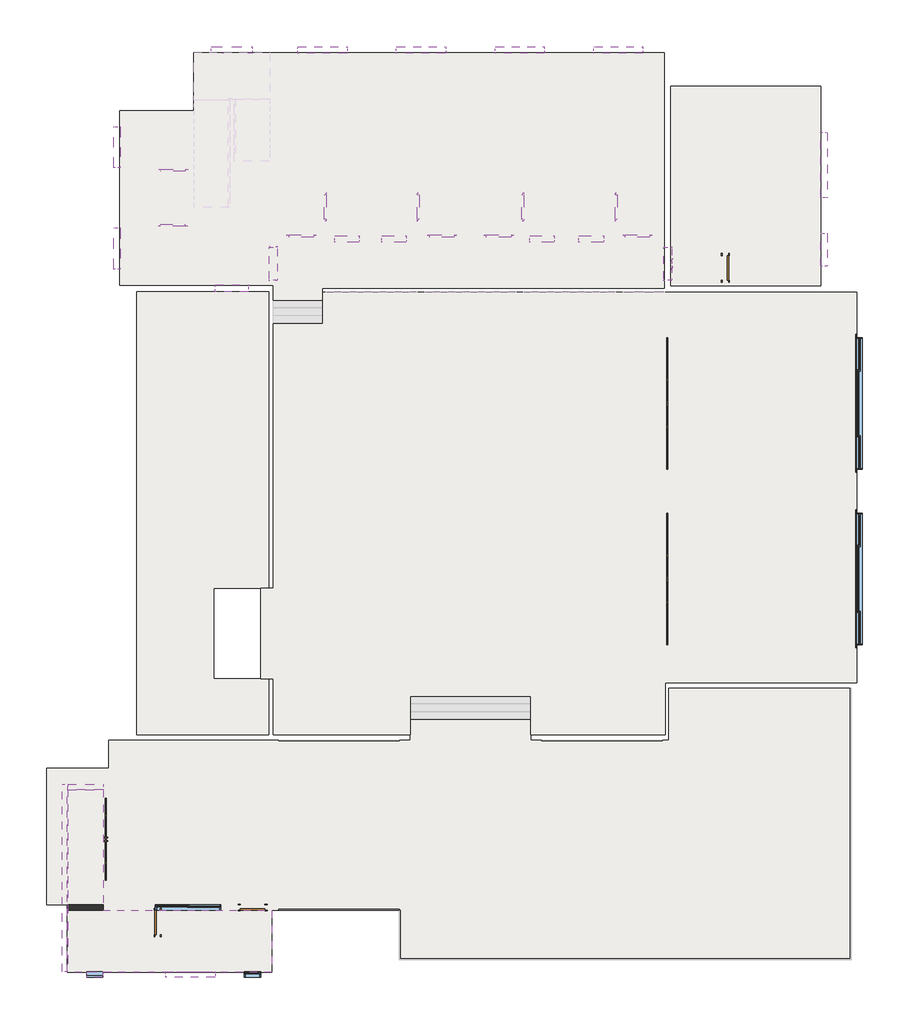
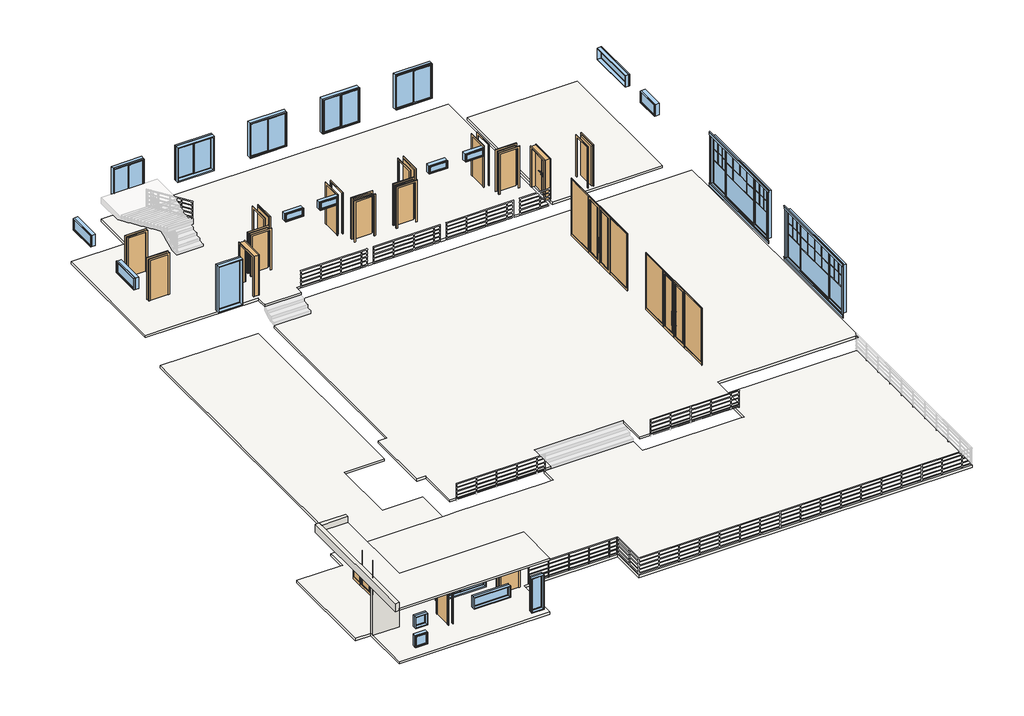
# One storey, part 1 of 5: 21 windows, 18 doors, 6 slabs, 3 walls, 1 railing.
"""IFC4 building model written with IfcOpenShell, lengths in millimetres."""

from ifc_helpers import new_model, si_unit, point, frame, frame_2d, origin, origin_with_axes, place, context, project, spatial, polyline, circle_curve, trimmed, segment, composite_curve, outline, extrude, faceted_brep, transform, mapped, element, save
from components import d1221_ba4ee0d3, m0921_198a37c4, m0921_4988a537, m0921_9b42acbb, m0921_203bd3fe, m0921_bb00f214, m0921_8cb0c558, m1221_25037a99, m3021_f616fdb8, m3021_ca4d32ab, m3021_a8b2207c, mlc4830_251ce5c6, c_1_92099e65, c_2_83bb7daf, c_3_d5226f5c, c_4_3e6a4c70, c1518_ca295862, c1818_23193a84, c2415_50dca1b5, c4825_28e7b31b, gc0904_cdc2df7b, gc1206_d9a31f06, gc1506_fe2e2cb9, gc2406_33aaf671

model = new_model("IFC4")

# Units and contexts
model_context = context("Model", 3, world=origin())
ifc_project = project(units=[si_unit("LENGTHUNIT", "METRE", prefix="MILLI")], contexts=[model_context])

# Site, building, storey
site = spatial("IfcSite", under=ifc_project)
building = spatial("IfcBuilding", under=site)
storey = spatial("IfcBuildingStorey", under=building, Name="标高 1", Elevation=0.0)

# Doors
placement = place(None, origin())
d1221_shape = d1221_ba4ee0d3(model_context)
element("IfcDoor", 1, ObjectType="门洞 : D1221", at=placement, inside=storey, context=model_context, shape_type="MappedRepresentation", body=[
    mapped(d1221_shape, transform((-2863.2622628, 17944.1658649, 1200.0), x_axis=(0.0, -1.0, 0.0), y_axis=(1.0, 0.0, 0.0), z_axis=(0.0, 0.0, 1.0))),
])
m0921_shape = m0921_198a37c4(model_context)
element("IfcDoor", 2, ObjectType="单扇 - 与墙齐 : M0921", at=placement, inside=storey, context=model_context, shape_type="MappedRepresentation", body=[
    mapped(m0921_shape, transform((-1828.2622628, 18844.1658649, 1200.0), x_axis=(-1.0, 0.0, 0.0), y_axis=(0.0, -1.0, 0.0), z_axis=(0.0, 0.0, 1.0))),
])
element("IfcDoor", 3, ObjectType="单扇 - 与墙齐 : M0921", at=placement, inside=storey, context=model_context, shape_type="MappedRepresentation", body=[
    mapped(m0921_shape, transform((2536.7377372, 20009.1658649, 1200.0), x_axis=(0.0, -1.0, 0.0), y_axis=(1.0, 0.0, 0.0), z_axis=(0.0, 0.0, 1.0))),
])
element("IfcDoor", 4, ObjectType="单扇 - 与墙齐 : M0921", at=placement, inside=storey, context=model_context, shape_type="MappedRepresentation", body=[
    mapped(m0921_shape, transform((5371.7377372, 18844.1658649, 1200.0), x_axis=(-1.0, 0.0, 0.0), y_axis=(0.0, -1.0, 0.0), z_axis=(0.0, 0.0, 1.0))),
])
element("IfcDoor", 5, ObjectType="单扇 - 与墙齐 : M0921", at=placement, inside=storey, context=model_context, shape_type="MappedRepresentation", body=[
    mapped(m0921_shape, transform((9766.7377372, 20009.1658649, 1200.0), x_axis=(0.0, -1.0, 0.0), y_axis=(1.0, 0.0, 0.0), z_axis=(0.0, 0.0, 1.0))),
])
m0921_2_shape = m0921_4988a537(model_context)
element("IfcDoor", 6, ObjectType="单扇 - 与墙齐 : M0921", at=placement, inside=storey, context=model_context, shape_type="MappedRepresentation", body=[
    mapped(m0921_2_shape, transform((-1063.2622628, 20009.1658649, 1200.0), x_axis=(0.0, -1.0, 0.0), y_axis=(1.0, 0.0, 0.0), z_axis=(0.0, 0.0, 1.0))),
])
element("IfcDoor", 7, ObjectType="单扇 - 与墙齐 : M0921", at=placement, inside=storey, context=model_context, shape_type="MappedRepresentation", body=[
    mapped(m0921_2_shape, transform((6136.7377372, 20009.1658649, 1200.0), x_axis=(0.0, -1.0, 0.0), y_axis=(1.0, 0.0, 0.0), z_axis=(0.0, 0.0, 1.0))),
])
element("IfcDoor", 8, ObjectType="单扇 - 与墙齐 : M0921", at=placement, inside=storey, context=model_context, shape_type="MappedRepresentation", body=[
    mapped(m0921_2_shape, transform((10436.7377372, 18844.1658649, 1200.0), x_axis=(1.0, 0.0, 0.0), y_axis=(0.0, 1.0, 0.0), z_axis=(0.0, 0.0, 1.0))),
])
element("IfcDoor", 9, ObjectType="单扇 - 与墙齐 : M0921", at=placement, inside=storey, context=model_context, shape_type="MappedRepresentation", body=[
    mapped(m0921_2_shape, transform((13646.7377372, 17789.1658649, 1150.0), x_axis=(0.0, -1.0, 0.0), y_axis=(1.0, 0.0, 0.0), z_axis=(0.0, 0.0, 1.0))),
])
element("IfcDoor", 10, ObjectType="单扇 - 与墙齐 : M0921", at=placement, inside=storey, context=model_context, shape_type="MappedRepresentation", body=[
    mapped(m0921_2_shape, transform((3301.7377372, 18844.1658649, 1200.0), x_axis=(1.0, 0.0, 0.0), y_axis=(0.0, 1.0, 0.0), z_axis=(0.0, 0.0, 1.0))),
])
m0921_3_shape = m0921_9b42acbb(model_context)
element("IfcDoor", 11, ObjectType="单扇 - 与墙齐 : M0921", at=placement, inside=storey, context=model_context, shape_type="MappedRepresentation", body=[
    mapped(m0921_3_shape, transform((-6508.2622628, 21304.1658649, 1200.0), x_axis=(1.0, 0.0, 0.0), y_axis=(0.0, 1.0, 0.0), z_axis=(0.0, 0.0, 1.0))),
])
m0921_4_shape = m0921_203bd3fe(model_context)
element("IfcDoor", 12, ObjectType="单扇 - 与墙齐 : M0921", at=placement, inside=storey, context=model_context, shape_type="MappedRepresentation", body=[
    mapped(m0921_4_shape, transform((-6528.2622628, 19384.1658649, 1200.0), x_axis=(1.0, 0.0, 0.0), y_axis=(0.0, 1.0, 0.0), z_axis=(0.0, 0.0, 1.0))),
])
m0921_5_shape = m0921_bb00f214(model_context)
element("IfcDoor", 13, ObjectType="单扇 - 与墙齐 : M0921", at=placement, inside=storey, context=model_context, shape_type="MappedRepresentation", body=[
    mapped(m0921_5_shape, transform((-3608.2622628, -5555.8341351, 0.0), x_axis=(1.0, 0.0, 0.0), y_axis=(0.0, 1.0, 0.0), z_axis=(0.0, 0.0, 1.0))),
])
m0921_6_shape = m0921_8cb0c558(model_context)
element("IfcDoor", 14, ObjectType="单扇 - 与墙齐 : M0921", at=placement, inside=storey, context=model_context, shape_type="MappedRepresentation", body=[
    mapped(m0921_6_shape, transform((-7073.2622628, -6100.8341351, 0.0), x_axis=(0.0, 1.0, 0.0), y_axis=(-1.0, 0.0, 0.0), z_axis=(0.0, 0.0, 1.0))),
])
m1221_shape = m1221_25037a99(model_context)
element("IfcDoor", 15, ObjectType="双面嵌板木门 1 : M1221", at=placement, inside=storey, context=model_context, shape_type="MappedRepresentation", body=[
    mapped(m1221_shape, transform((11536.7377372, 17934.1658649, 1200.0), x_axis=(0.0, -1.0, 0.0), y_axis=(1.0, 0.0, 0.0), z_axis=(0.0, 0.0, 1.0))),
])
m3021_shape = m3021_f616fdb8(model_context)
m3021_2_shape = m3021_ca4d32ab(model_context)
m3021_3_shape = m3021_a8b2207c(model_context)
element("IfcDoor", 16, ObjectType="双面嵌板连窗玻璃门 3 : M3021", at=placement, inside=storey, context=model_context, shape_type="MappedRepresentation", body=[
    mapped(m3021_shape, transform((-8963.2622628, -3060.8341351, 0.0), x_axis=(0.0, -1.0, 0.0), y_axis=(1.0, 0.0, 0.0), z_axis=(0.0, 0.0, 1.0))),
    mapped(m3021_2_shape, transform((-8963.2622628, -3060.8341351, 0.0), x_axis=(0.0, -1.0, 0.0), y_axis=(1.0, 0.0, 0.0), z_axis=(0.0, 0.0, 1.0))),
    mapped(m3021_3_shape, transform((-8963.2622628, -3060.8341351, 0.0), x_axis=(0.0, -1.0, 0.0), y_axis=(1.0, 0.0, 0.0), z_axis=(0.0, 0.0, 1.0))),
])
mlc4830_shape = mlc4830_251ce5c6(model_context)
element("IfcDoor", 17, ObjectType="双面嵌板连窗玻璃门 3 : MLC4830", at=placement, inside=storey, context=model_context, shape_type="MappedRepresentation", body=[
    mapped(m3021_shape, transform((11516.7377372, 12844.1658649, 600.0), x_axis=(0.0, -1.0, 0.0), y_axis=(1.0, 0.0, 0.0), z_axis=(0.0, 0.0, 1.0))),
    mapped(m3021_2_shape, transform((11516.7377372, 12844.1658649, 600.0), x_axis=(0.0, -1.0, 0.0), y_axis=(1.0, 0.0, 0.0), z_axis=(0.0, 0.0, 1.0))),
    mapped(mlc4830_shape, transform((11516.7377372, 12844.1658649, 600.0), x_axis=(0.0, -1.0, 0.0), y_axis=(1.0, 0.0, 0.0), z_axis=(0.0, 0.0, 1.0))),
])
element("IfcDoor", 18, ObjectType="双面嵌板连窗玻璃门 3 : MLC4830", at=placement, inside=storey, context=model_context, shape_type="MappedRepresentation", body=[
    mapped(m3021_shape, transform((11516.7377372, 6439.1658649, 600.0), x_axis=(0.0, -1.0, 0.0), y_axis=(1.0, 0.0, 0.0), z_axis=(0.0, 0.0, 1.0))),
    mapped(m3021_2_shape, transform((11516.7377372, 6439.1658649, 600.0), x_axis=(0.0, -1.0, 0.0), y_axis=(1.0, 0.0, 0.0), z_axis=(0.0, 0.0, 1.0))),
    mapped(mlc4830_shape, transform((11516.7377372, 6439.1658649, 600.0), x_axis=(0.0, -1.0, 0.0), y_axis=(1.0, 0.0, 0.0), z_axis=(0.0, 0.0, 1.0))),
])

# Railing
element("IfcRailing", 19, ObjectType="900mm 圆管", at=placement, inside=storey, context=model_context, shape_type="SweptSolid", body=[
    extrude(outline(composite_curve([segment(trimmed(circle_curve(frame_2d((-5635.8341351, 880.0)), 20.0), [point((-5655.8341351, 880.0))], [point((-5615.8341351, 880.0))], False, "CARTESIAN"), True, "CONTINUOUS"), segment(trimmed(circle_curve(frame_2d((-5635.8341351, 880.0)), 20.0), [point((-5615.8341351, 880.0))], [point((-5655.8341351, 880.0))], False, "CARTESIAN"), True, "CONTINUOUS")], self_intersect=False)), frame((-2663.2622628, 0.0, 0.0), z_axis=(1.0, 0.0, 0.0), x_axis=(0.0, 1.0, 0.0)), (0.0, 0.0, 1.0), 4400.0),
    extrude(outline(composite_curve([segment(trimmed(circle_curve(frame_2d((-5635.8341351, 685.0)), 15.0), [point((-5620.8341351, 685.0))], [point((-5650.8341351, 685.0))], False, "CARTESIAN"), True, "CONTINUOUS"), segment(trimmed(circle_curve(frame_2d((-5635.8341351, 685.0)), 15.0), [point((-5650.8341351, 685.0))], [point((-5620.8341351, 685.0))], False, "CARTESIAN"), True, "CONTINUOUS")], self_intersect=False)), frame((-2663.2622628, 0.0, 0.0), z_axis=(1.0, 0.0, 0.0), x_axis=(0.0, 1.0, 0.0)), (0.0, 0.0, 1.0), 4400.0),
    extrude(outline(composite_curve([segment(trimmed(circle_curve(frame_2d((-5635.8341351, 485.0)), 15.0), [point((-5620.8341351, 485.0))], [point((-5650.8341351, 485.0))], False, "CARTESIAN"), True, "CONTINUOUS"), segment(trimmed(circle_curve(frame_2d((-5635.8341351, 485.0)), 15.0), [point((-5650.8341351, 485.0))], [point((-5620.8341351, 485.0))], False, "CARTESIAN"), True, "CONTINUOUS")], self_intersect=False)), frame((-2663.2622628, 0.0, 0.0), z_axis=(1.0, 0.0, 0.0), x_axis=(0.0, 1.0, 0.0)), (0.0, 0.0, 1.0), 4400.0),
    extrude(outline(composite_curve([segment(trimmed(circle_curve(frame_2d((-5635.8341351, 285.0)), 15.0), [point((-5620.8341351, 285.0))], [point((-5650.8341351, 285.0))], False, "CARTESIAN"), True, "CONTINUOUS"), segment(trimmed(circle_curve(frame_2d((-5635.8341351, 285.0)), 15.0), [point((-5650.8341351, 285.0))], [point((-5620.8341351, 285.0))], False, "CARTESIAN"), True, "CONTINUOUS")], self_intersect=False)), frame((-2663.2622628, 0.0, 0.0), z_axis=(1.0, 0.0, 0.0), x_axis=(0.0, 1.0, 0.0)), (0.0, 0.0, 1.0), 4400.0),
    extrude(outline(composite_curve([segment(trimmed(circle_curve(frame_2d((-5635.8341351, 85.0)), 15.0), [point((-5620.8341351, 85.0))], [point((-5650.8341351, 85.0))], False, "CARTESIAN"), True, "CONTINUOUS"), segment(trimmed(circle_curve(frame_2d((-5635.8341351, 85.0)), 15.0), [point((-5650.8341351, 85.0))], [point((-5620.8341351, 85.0))], False, "CARTESIAN"), True, "CONTINUOUS")], self_intersect=False)), frame((-2663.2622628, 0.0, 0.0), z_axis=(1.0, 0.0, 0.0), x_axis=(0.0, 1.0, 0.0)), (0.0, 0.0, 1.0), 4400.0),
    extrude(outline(composite_curve([segment(trimmed(circle_curve(frame_2d((1336.7377372, -5635.8341351)), 12.5), [point((1336.7377372, -5623.3341351))], [point((1336.7377372, -5648.3341351))], False, "CARTESIAN"), True, "CONTINUOUS"), segment(trimmed(circle_curve(frame_2d((1336.7377372, -5635.8341351)), 12.5), [point((1336.7377372, -5648.3341351))], [point((1336.7377372, -5623.3341351))], False, "CARTESIAN"), True, "CONTINUOUS")], self_intersect=False)), origin_with_axes(), (0.0, 0.0, 1.0), 860.0),
    extrude(outline(composite_curve([segment(trimmed(circle_curve(frame_2d((336.7377372, -5635.8341351)), 12.5), [point((336.7377372, -5623.3341351))], [point((336.7377372, -5648.3341351))], False, "CARTESIAN"), True, "CONTINUOUS"), segment(trimmed(circle_curve(frame_2d((336.7377372, -5635.8341351)), 12.5), [point((336.7377372, -5648.3341351))], [point((336.7377372, -5623.3341351))], False, "CARTESIAN"), True, "CONTINUOUS")], self_intersect=False)), origin_with_axes(), (0.0, 0.0, 1.0), 860.0),
    extrude(outline(composite_curve([segment(trimmed(circle_curve(frame_2d((-663.2622628, -5635.8341351)), 12.5), [point((-663.2622628, -5623.3341351))], [point((-663.2622628, -5648.3341351))], False, "CARTESIAN"), True, "CONTINUOUS"), segment(trimmed(circle_curve(frame_2d((-663.2622628, -5635.8341351)), 12.5), [point((-663.2622628, -5648.3341351))], [point((-663.2622628, -5623.3341351))], False, "CARTESIAN"), True, "CONTINUOUS")], self_intersect=False)), origin_with_axes(), (0.0, 0.0, 1.0), 860.0),
    extrude(outline(composite_curve([segment(trimmed(circle_curve(frame_2d((-1663.2622628, -5635.8341351)), 12.5), [point((-1663.2622628, -5623.3341351))], [point((-1663.2622628, -5648.3341351))], False, "CARTESIAN"), True, "CONTINUOUS"), segment(trimmed(circle_curve(frame_2d((-1663.2622628, -5635.8341351)), 12.5), [point((-1663.2622628, -5648.3341351))], [point((-1663.2622628, -5623.3341351))], False, "CARTESIAN"), True, "CONTINUOUS")], self_intersect=False)), origin_with_axes(), (0.0, 0.0, 1.0), 860.0),
    extrude(outline(composite_curve([segment(trimmed(circle_curve(frame_2d((1724.2377372, -5635.8341351)), 12.5), [point((1724.2377372, -5623.3341351))], [point((1724.2377372, -5648.3341351))], False, "CARTESIAN"), True, "CONTINUOUS"), segment(trimmed(circle_curve(frame_2d((1724.2377372, -5635.8341351)), 12.5), [point((1724.2377372, -5648.3341351))], [point((1724.2377372, -5623.3341351))], False, "CARTESIAN"), True, "CONTINUOUS")], self_intersect=False)), origin_with_axes(), (0.0, 0.0, 1.0), 860.0),
    extrude(outline(composite_curve([segment(trimmed(circle_curve(frame_2d((-2650.7622628, -5635.8341351)), 12.5), [point((-2650.7622628, -5623.3341351))], [point((-2650.7622628, -5648.3341351))], False, "CARTESIAN"), True, "CONTINUOUS"), segment(trimmed(circle_curve(frame_2d((-2650.7622628, -5635.8341351)), 12.5), [point((-2650.7622628, -5648.3341351))], [point((-2650.7622628, -5623.3341351))], False, "CARTESIAN"), True, "CONTINUOUS")], self_intersect=False)), origin_with_axes(), (0.0, 0.0, 1.0), 860.0),
])

# Slabs
element("IfcSlab", 20, ObjectType="楼板-120mm", at=placement, inside=storey, context=model_context, shape_type="Brep", body=[
    faceted_brep([(-5748.2622628, 23529.1658649, 1080.0), (-5748.2622628, 25629.1658649, 1080.0), (11421.7377372, 25629.1658649, 1080.0), (11421.7377372, 17039.1658649, 1080.0), (9916.7377372, 17039.1658649, 1080.0), (9616.7377372, 17039.1658649, 1080.0), (6286.7377372, 17039.1658649, 1080.0), (5986.7377372, 17039.1658649, 1080.0), (2686.7377372, 17039.1658649, 1080.0), (2386.7377372, 17039.1658649, 1080.0), (-913.2622628, 17039.1658649, 1080.0), (-1063.2622628, 17039.1658649, 1080.0), (-1063.2622628, 16894.1658649, 1080.0), (-1063.2622628, 16609.1658649, 1080.0), (-2863.2622628, 16609.1658649, 1080.0), (-2863.2622628, 17159.1658649, 1080.0), (-8448.2622628, 17159.1658649, 1080.0), (-8448.2622628, 23529.1658649, 1080.0), (-5748.2622628, 23529.1658649, 1200.0), (-8448.2622628, 23529.1658649, 1200.0), (-8448.2622628, 17159.1658649, 1200.0), (-2863.2622628, 17159.1658649, 1200.0), (-2863.2622628, 16609.1658649, 1200.0), (-1063.2622628, 16609.1658649, 1200.0), (-1063.2622628, 16894.1658649, 1200.0), (-1063.2622628, 17039.1658649, 1200.0), (-913.2622628, 17039.1658649, 1200.0), (2386.7377372, 17039.1658649, 1200.0), (2686.7377372, 17039.1658649, 1200.0), (5986.7377372, 17039.1658649, 1200.0), (6286.7377372, 17039.1658649, 1200.0), (9616.7377372, 17039.1658649, 1200.0), (9916.7377372, 17039.1658649, 1200.0), (11421.7377372, 17039.1658649, 1200.0), (11421.7377372, 25629.1658649, 1200.0), (-5748.2622628, 25629.1658649, 1200.0)], [[[0, 1, 2, 3, 4, 5, 6, 7, 8, 9, 10, 11, 12, 13, 14, 15, 16, 17]], [[18, 19, 20, 21, 22, 23, 24, 25, 26, 27, 28, 29, 30, 31, 32, 33, 34, 35]], [[1, 0, 18, 35]], [[2, 1, 35, 34]], [[3, 2, 34, 33]], [[11, 10, 9, 8, 7, 6, 5, 4, 3, 33, 32, 31, 30, 29, 28, 27, 26, 25]], [[16, 15, 21, 20]], [[17, 16, 20, 19]], [[0, 17, 19, 18]], [[14, 13, 23, 22]], [[13, 12, 11, 25, 24, 23]], [[15, 14, 22, 21]]]),
])
element("IfcSlab", 21, ObjectType="楼板-120mm", at=placement, inside=storey, context=model_context, shape_type="Brep", body=[
    faceted_brep([(-2863.2622628, 2794.1658649, 480.0), (-3316.5534658, 2794.1658649, 480.0), (-3316.5534658, 6094.1658649, 480.0), (-2863.2622628, 6094.1658649, 480.0), (-2863.2622628, 15774.1658649, 480.0), (-1063.2622628, 15774.1658649, 480.0), (-1063.2622628, 16894.1658649, 480.0), (18436.7377372, 16894.1658649, 480.0), (18436.7377372, 15644.1658649, 480.0), (18436.7377372, 15244.1658649, 480.0), (18436.7377372, 10044.1658649, 480.0), (18436.7377372, 9644.1658649, 480.0), (18436.7377372, 2844.1658649, 480.0), (18436.7377372, 2644.1658649, 480.0), (18236.7377372, 2644.1658649, 480.0), (11736.7377372, 2644.1658649, 480.0), (11456.7377372, 2644.1658649, 480.0), (11456.7377372, 2444.1658649, 480.0), (11456.7377372, 744.1658649, 480.0), (6536.7377372, 744.1658649, 480.0), (6536.7377372, 2164.1658649, 480.0), (2136.7377372, 2164.1658649, 480.0), (2136.7377372, 744.1658649, 480.0), (-2863.2622628, 744.1658649, 480.0), (-2863.2622628, 2794.1658649, 600.0), (-2863.2622628, 744.1658649, 600.0), (2136.7377372, 744.1658649, 600.0), (2136.7377372, 2164.1658649, 600.0), (6536.7377372, 2164.1658649, 600.0), (6536.7377372, 744.1658649, 600.0), (11456.7377372, 744.1658649, 600.0), (11456.7377372, 2444.1658649, 600.0), (11456.7377372, 2644.1658649, 600.0), (11736.7377372, 2644.1658649, 600.0), (18236.7377372, 2644.1658649, 600.0), (18436.7377372, 2644.1658649, 600.0), (18436.7377372, 2844.1658649, 600.0), (18436.7377372, 9644.1658649, 600.0), (18436.7377372, 10044.1658649, 600.0), (18436.7377372, 15244.1658649, 600.0), (18436.7377372, 15644.1658649, 600.0), (18436.7377372, 16894.1658649, 600.0), (-1063.2622628, 16894.1658649, 600.0), (-1063.2622628, 15774.1658649, 600.0), (-2863.2622628, 15774.1658649, 600.0), (-2863.2622628, 6094.1658649, 600.0), (-3316.5534658, 6094.1658649, 600.0), (-3316.5534658, 2794.1658649, 600.0)], [[[0, 1, 2, 3, 4, 5, 6, 7, 8, 9, 10, 11, 12, 13, 14, 15, 16, 17, 18, 19, 20, 21, 22, 23]], [[24, 25, 26, 27, 28, 29, 30, 31, 32, 33, 34, 35, 36, 37, 38, 39, 40, 41, 42, 43, 44, 45, 46, 47]], [[5, 4, 44, 43]], [[6, 5, 43, 42]], [[7, 6, 42, 41]], [[13, 12, 11, 10, 9, 8, 7, 41, 40, 39, 38, 37, 36, 35]], [[16, 15, 14, 13, 35, 34, 33, 32]], [[18, 17, 16, 32, 31, 30]], [[19, 18, 30, 29]], [[20, 19, 29, 28]], [[21, 20, 28, 27]], [[22, 21, 27, 26]], [[23, 22, 26, 25]], [[0, 23, 25, 24]], [[1, 0, 24, 47]], [[2, 1, 47, 46]], [[3, 2, 46, 45]], [[4, 3, 45, 44]]]),
])
element("IfcSlab", 22, ObjectType="楼板-120mm", at=placement, inside=storey, context=model_context, shape_type="SweptSolid", body=[
    extrude(outline(polyline([(11656.7377372, 24424.1658649), (17116.7377372, 24424.1658649), (17116.7377372, 17144.1658649), (11656.7377372, 17144.1658649), (11656.7377372, 24424.1658649)])), frame((0.0, 0.0, 1030.0), z_axis=(0.0, 0.0, 1.0), x_axis=(1.0, 0.0, 0.0)), (0.0, 0.0, 1.0), 120.0),
])
element("IfcSlab", 23, ObjectType="楼板-120mm", at=placement, inside=storey, context=model_context, shape_type="SweptSolid", body=[
    extrude(outline(polyline([(-7843.2622628, 16924.1658649), (-3013.2622628, 16924.1658649), (-3013.2622628, 6094.1658649), (-5021.5534658, 6094.1658649), (-5021.5534658, 2794.1658649), (-3013.2622628, 2794.1658649), (-3013.2622628, 744.1658649), (-7843.2622628, 744.1658649), (-7843.2622628, 16924.1658649)])), frame((0.0, 0.0, -570.0), z_axis=(0.0, 0.0, 1.0), x_axis=(1.0, 0.0, 0.0)), (0.0, 0.0, 1.0), 120.0),
])
element("IfcSlab", 24, ObjectType="楼板-120mm", at=placement, inside=storey, context=model_context, shape_type="Brep", body=[
    faceted_brep([(2136.7377372, 549.1658649, -120.0), (2136.7377372, 1319.1658649, -120.0), (6536.7377372, 1319.1658649, -120.0), (6536.7377372, 549.1658649, -120.0), (6936.7377372, 549.1658649, -120.0), (11336.7377372, 549.1658649, -120.0), (11576.7377372, 549.1658649, -120.0), (11576.7377372, 744.1658649, -120.0), (11576.7377372, 2449.1658649, -120.0), (18236.7377372, 2449.1658649, -120.0), (18236.7377372, -7455.8341351, -120.0), (1736.7377372, -7455.8341351, -120.0), (1736.7377372, -5655.8341351, -120.0), (1736.7377372, -5650.8341351, -120.0), (-2663.2622628, -5650.8341351, -120.0), (-2908.2622628, -5650.8341351, -120.0), (-2908.2622628, -5655.8341351, -120.0), (-2908.2622628, -7910.8341351, -120.0), (-10368.2622628, -7910.8341351, -120.0), (-10368.2622628, -5460.8341351, -120.0), (-11128.2622628, -5460.8341351, -120.0), (-11128.2622628, -466.0438828, -120.0), (-8863.2622628, -466.0438828, -120.0), (-8863.2622628, 344.1658649, -120.0), (-8863.2622628, 549.1658649, -120.0), (-8663.2622628, 549.1658649, -120.0), (-3063.2622628, 549.1658649, -120.0), (-2663.2622628, 549.1658649, -120.0), (1736.7377372, 549.1658649, -120.0), (2136.7377372, 549.1658649, 0.0), (1736.7377372, 549.1658649, 0.0), (-2663.2622628, 549.1658649, 0.0), (-3063.2622628, 549.1658649, 0.0), (-8663.2622628, 549.1658649, 0.0), (-8863.2622628, 549.1658649, 0.0), (-8863.2622628, 344.1658649, 0.0), (-8863.2622628, -466.0438828, 0.0), (-11128.2622628, -466.0438828, 0.0), (-11128.2622628, -5460.8341351, 0.0), (-10368.2622628, -5460.8341351, 0.0), (-10368.2622628, -7910.8341351, 0.0), (-2908.2622628, -7910.8341351, 0.0), (-2908.2622628, -5655.8341351, 0.0), (-2908.2622628, -5650.8341351, 0.0), (-2663.2622628, -5650.8341351, 0.0), (1736.7377372, -5650.8341351, 0.0), (1736.7377372, -5655.8341351, 0.0), (1736.7377372, -7455.8341351, 0.0), (18236.7377372, -7455.8341351, 0.0), (18236.7377372, 2449.1658649, 0.0), (11576.7377372, 2449.1658649, 0.0), (11576.7377372, 744.1658649, 0.0), (11576.7377372, 549.1658649, 0.0), (11336.7377372, 549.1658649, 0.0), (6936.7377372, 549.1658649, 0.0), (6536.7377372, 549.1658649, 0.0), (6536.7377372, 1319.1658649, 0.0), (2136.7377372, 1319.1658649, 0.0)], [[[0, 1, 2, 3, 4, 5, 6, 7, 8, 9, 10, 11, 12, 13, 14, 15, 16, 17, 18, 19, 20, 21, 22, 23, 24, 25, 26, 27, 28]], [[29, 30, 31, 32, 33, 34, 35, 36, 37, 38, 39, 40, 41, 42, 43, 44, 45, 46, 47, 48, 49, 50, 51, 52, 53, 54, 55, 56, 57]], [[8, 7, 6, 52, 51, 50]], [[9, 8, 50, 49]], [[10, 9, 49, 48]], [[11, 10, 48, 47]], [[13, 12, 11, 47, 46, 45]], [[15, 14, 13, 45, 44, 43]], [[17, 16, 15, 43, 42, 41]], [[18, 17, 41, 40]], [[19, 18, 40, 39]], [[20, 19, 39, 38]], [[21, 20, 38, 37]], [[22, 21, 37, 36]], [[24, 23, 22, 36, 35, 34]], [[0, 28, 27, 26, 25, 24, 34, 33, 32, 31, 30, 29]], [[1, 0, 29, 57]], [[2, 1, 57, 56]], [[3, 2, 56, 55]], [[6, 5, 4, 3, 55, 54, 53, 52]]]),
])
element("IfcSlab", 25, ObjectType="楼板-120mm", at=placement, inside=storey, context=model_context, shape_type="SweptSolid", body=[
    extrude(outline(polyline([(-10368.2622628, -1250.8341351), (-9058.2622628, -1250.8341351), (-9058.2622628, -5650.8341351), (-2908.2622628, -5650.8341351), (-2908.2622628, -7910.8341351), (-10368.2622628, -7910.8341351), (-10368.2622628, -1250.8341351)])), frame((0.0, 0.0, 2680.0), z_axis=(0.0, 0.0, 1.0), x_axis=(1.0, 0.0, 0.0)), (0.0, 0.0, 1.0), 120.0),
])

# Walls
element("IfcWall", 26, ObjectType="200mm厚墙", at=placement, inside=storey, context=model_context, shape_type="SweptSolid", body=[
    extrude(outline(polyline([(-10363.2622628, -5455.8341351), (-9063.2622628, -5455.8341351), (-9063.2622628, -5655.8341351), (-10363.2622628, -5655.8341351), (-10363.2622628, -5455.8341351)])), origin_with_axes(), (0.0, 0.0, 1.0), 2680.0),
])
element("IfcWall", 27, ObjectType="200mm厚墙", at=placement, inside=storey, context=model_context, shape_type="Brep", body=[
    faceted_brep([(-10363.2622628, -7905.8341351, 2680.0), (-10363.2622628, -5455.8341351, 2680.0), (-10363.2622628, -1255.8341351, 2680.0), (-10363.2622628, -1055.8341351, 2680.0), (-10363.2622628, -1055.8341351, 3100.0), (-10363.2622628, -1255.8341351, 3100.0), (-10363.2622628, -7905.8341351, 3100.0), (-10563.2622628, -7905.8341351, 2680.0), (-10563.2622628, -7905.8341351, 3100.0), (-10563.2622628, -1055.8341351, 3100.0), (-10563.2622628, -1055.8341351, 2680.0), (-10563.2622628, -5455.8341351, 2680.0)], [[[0, 1, 2, 3, 4, 5, 6]], [[7, 8, 9, 10, 11]], [[3, 2, 1, 0, 7, 11, 10]], [[6, 5, 4, 9, 8]], [[4, 3, 10, 9]], [[0, 6, 8, 7]]]),
])
element("IfcWall", 28, ObjectType="200mm厚墙", at=placement, inside=storey, context=model_context, shape_type="SweptSolid", body=[
    extrude(outline(polyline([(-9063.2622628, -1255.8341351), (-10363.2622628, -1255.8341351), (-10363.2622628, -1055.8341351), (-9063.2622628, -1055.8341351), (-9063.2622628, -1255.8341351)])), frame((0.0, 0.0, 2680.0), z_axis=(0.0, 0.0, 1.0), x_axis=(1.0, 0.0, 0.0)), (0.0, 0.0, 1.0), 420.0),
])

# Windows
c_1_shape = c_1_92099e65(model_context)
element("IfcWindow", 29, ObjectType="固定 : C-1", at=placement, inside=storey, context=model_context, shape_type="MappedRepresentation", body=[
    mapped(c_1_shape, transform((-4363.2622628, 17031.1658649, 385.0), x_axis=(1.0, 0.0, 0.0), y_axis=(0.0, 1.0, 0.0), z_axis=(0.0, 0.0, 1.0))),
])
c_2_shape = c_2_83bb7daf(model_context)
element("IfcWindow", 30, ObjectType="固定 : C-2", at=placement, inside=storey, context=model_context, shape_type="MappedRepresentation", body=[
    mapped(c_2_shape, transform((-9368.2622628, -7992.8341351, -315.0), x_axis=(-1.0, 0.0, 0.0), y_axis=(0.0, -1.0, 0.0), z_axis=(0.0, 0.0, 1.0))),
])
element("IfcWindow", 31, ObjectType="固定 : C-2", at=placement, inside=storey, context=model_context, shape_type="MappedRepresentation", body=[
    mapped(c_2_shape, transform((-9368.2622628, -8018.8341351, 685.0), x_axis=(1.0, 0.0, 0.0), y_axis=(0.0, 1.0, 0.0), z_axis=(0.0, 0.0, 1.0))),
])
c_3_shape = c_3_d5226f5c(model_context)
element("IfcWindow", 32, ObjectType="固定 : C-3", at=placement, inside=storey, context=model_context, shape_type="MappedRepresentation", body=[
    mapped(c_3_shape, transform((-5873.2622628, -8018.8341351, 0.0), x_axis=(1.0, 0.0, 0.0), y_axis=(0.0, 1.0, 0.0), z_axis=(0.0, 0.0, 1.0))),
])
c_4_shape = c_4_3e6a4c70(model_context)
element("IfcWindow", 33, ObjectType="固定 : C-4", at=placement, inside=storey, context=model_context, shape_type="MappedRepresentation", body=[
    mapped(c_4_shape, transform((-3613.2622628, -8018.8341351, -1200.0), x_axis=(1.0, 0.0, 0.0), y_axis=(0.0, 1.0, 0.0), z_axis=(0.0, 0.0, 1.0))),
])
c1518_shape = c1518_ca295862(model_context)
element("IfcWindow", 34, ObjectType="推拉窗6 : C1518", at=placement, inside=storey, context=model_context, shape_type="MappedRepresentation", body=[
    mapped(c1518_shape, transform((-4353.7372628, 25677.2924274, 1200.0), x_axis=(-1.0, 0.0, 0.0), y_axis=(0.0, -1.0, 0.0), z_axis=(0.0, 0.0, 1.0))),
])
c1818_shape = c1818_23193a84(model_context)
element("IfcWindow", 35, ObjectType="推拉窗6 : C1818", at=placement, inside=storey, context=model_context, shape_type="MappedRepresentation", body=[
    mapped(c1818_shape, transform((-1072.7872628, 25811.0393024, 1200.0), x_axis=(1.0, 0.0, 0.0), y_axis=(0.0, 1.0, 0.0), z_axis=(0.0, 0.0, 1.0))),
])
element("IfcWindow", 36, ObjectType="推拉窗6 : C1818", at=placement, inside=storey, context=model_context, shape_type="MappedRepresentation", body=[
    mapped(c1818_shape, transform((2546.2627372, 25677.2924274, 1200.0), x_axis=(-1.0, 0.0, 0.0), y_axis=(0.0, -1.0, 0.0), z_axis=(0.0, 0.0, 1.0))),
])
element("IfcWindow", 37, ObjectType="推拉窗6 : C1818", at=placement, inside=storey, context=model_context, shape_type="MappedRepresentation", body=[
    mapped(c1818_shape, transform((6146.2627372, 25677.2924274, 1200.0), x_axis=(-1.0, 0.0, 0.0), y_axis=(0.0, -1.0, 0.0), z_axis=(0.0, 0.0, 1.0))),
])
element("IfcWindow", 38, ObjectType="推拉窗6 : C1818", at=placement, inside=storey, context=model_context, shape_type="MappedRepresentation", body=[
    mapped(c1818_shape, transform((9746.2627372, 25677.2924274, 1200.0), x_axis=(-1.0, 0.0, 0.0), y_axis=(0.0, -1.0, 0.0), z_axis=(0.0, 0.0, 1.0))),
])
c2415_shape = c2415_50dca1b5(model_context)
element("IfcWindow", 39, ObjectType="推拉窗6 : C2415", at=placement, inside=storey, context=model_context, shape_type="MappedRepresentation", body=[
    mapped(c2415_shape, transform((-5972.7872628, -5488.9606976, 0.0), x_axis=(1.0, 0.0, 0.0), y_axis=(0.0, 1.0, 0.0), z_axis=(0.0, 0.0, 1.0))),
])
c4825_shape = c4825_28e7b31b(model_context)
element("IfcWindow", 40, ObjectType="推拉窗3 - 带贴面 : C4825", at=placement, inside=storey, context=model_context, shape_type="MappedRepresentation", body=[
    mapped(c4825_shape, transform((18536.7377372, 13460.0908649, 0.0), x_axis=(0.0, 1.0, 0.0), y_axis=(-1.0, 0.0, 0.0), z_axis=(0.0, 0.0, 1.0))),
])
element("IfcWindow", 41, ObjectType="推拉窗3 - 带贴面 : C4825", at=placement, inside=storey, context=model_context, shape_type="MappedRepresentation", body=[
    mapped(c4825_shape, transform((18536.7377372, 7055.0908649, 0.0), x_axis=(0.0, 1.0, 0.0), y_axis=(-1.0, 0.0, 0.0), z_axis=(0.0, 0.0, 1.0))),
])
gc0904_shape = gc0904_cdc2df7b(model_context)
element("IfcWindow", 42, ObjectType="固定 : GC0904", at=placement, inside=storey, context=model_context, shape_type="MappedRepresentation", body=[
    mapped(gc0904_shape, transform((-163.2622628, 18857.1658649, 2535.0), x_axis=(-1.0, 0.0, 0.0), y_axis=(0.0, -1.0, 0.0), z_axis=(0.0, 0.0, 1.0))),
])
element("IfcWindow", 43, ObjectType="固定 : GC0904", at=placement, inside=storey, context=model_context, shape_type="MappedRepresentation", body=[
    mapped(gc0904_shape, transform((1551.7377372, 18857.1658649, 2535.0), x_axis=(-1.0, 0.0, 0.0), y_axis=(0.0, -1.0, 0.0), z_axis=(0.0, 0.0, 1.0))),
])
element("IfcWindow", 44, ObjectType="固定 : GC0904", at=placement, inside=storey, context=model_context, shape_type="MappedRepresentation", body=[
    mapped(gc0904_shape, transform((6951.7377372, 18857.1658649, 2535.0), x_axis=(-1.0, 0.0, 0.0), y_axis=(0.0, -1.0, 0.0), z_axis=(0.0, 0.0, 1.0))),
])
element("IfcWindow", 45, ObjectType="固定 : GC0904", at=placement, inside=storey, context=model_context, shape_type="MappedRepresentation", body=[
    mapped(gc0904_shape, transform((8751.7377372, 18857.1658649, 2535.0), x_axis=(-1.0, 0.0, 0.0), y_axis=(0.0, -1.0, 0.0), z_axis=(0.0, 0.0, 1.0))),
])
gc1206_shape = gc1206_d9a31f06(model_context)
element("IfcWindow", 46, ObjectType="固定 : GC1206", at=placement, inside=storey, context=model_context, shape_type="MappedRepresentation", body=[
    mapped(gc1206_shape, transform((17249.7377372, 18444.1658649, 2385.0), x_axis=(0.0, 1.0, 0.0), y_axis=(-1.0, 0.0, 0.0), z_axis=(0.0, 0.0, 1.0))),
])
gc1506_shape = gc1506_fe2e2cb9(model_context)
element("IfcWindow", 47, ObjectType="固定 : GC1506", at=placement, inside=storey, context=model_context, shape_type="MappedRepresentation", body=[
    mapped(gc1506_shape, transform((-8550.2622628, 22194.1658649, 2385.0), x_axis=(0.0, 1.0, 0.0), y_axis=(-1.0, 0.0, 0.0), z_axis=(0.0, 0.0, 1.0))),
])
element("IfcWindow", 48, ObjectType="固定 : GC1506", at=placement, inside=storey, context=model_context, shape_type="MappedRepresentation", body=[
    mapped(gc1506_shape, transform((-8550.2622628, 18494.1658649, 2385.0), x_axis=(0.0, 1.0, 0.0), y_axis=(-1.0, 0.0, 0.0), z_axis=(0.0, 0.0, 1.0))),
])
gc2406_shape = gc2406_33aaf671(model_context)
element("IfcWindow", 49, ObjectType="固定 : GC2406", at=placement, inside=storey, context=model_context, shape_type="MappedRepresentation", body=[
    mapped(gc2406_shape, transform((17223.7377372, 21544.1658649, 2385.0), x_axis=(0.0, -1.0, 0.0), y_axis=(1.0, 0.0, 0.0), z_axis=(0.0, 0.0, 1.0))),
])

save(model, "model.ifc")
